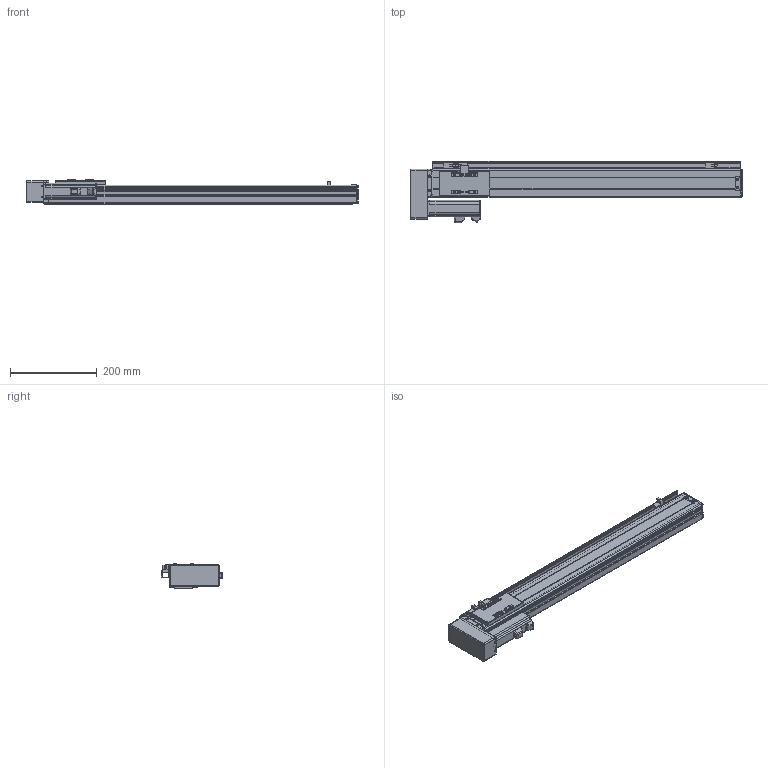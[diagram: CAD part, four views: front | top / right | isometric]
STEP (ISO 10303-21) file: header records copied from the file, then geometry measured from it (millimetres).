
FILE_DESCRIPTION (( 'STEP AP203' ), '1' );
FILE_NAME ('VT6-S560-BL.STEP', '2016-06-17T09:50:57', ( '' ), ( '' ), 'SwSTEP 2.0', 'SolidWorks 2013', '' );
FILE_SCHEMA (( 'CONFIG_CONTROL_DESIGN' ));
Length unit declared in the file: millimetre
Products named in the file (17): VT6-S560-BL; ET6-BLRM絳寢_俴最560; ET6-BC耜啣_560; ET6-BLRM滅鳥湍_560; ET6-BC癹弇羲壽羞_560; ET6-BLRM佪裝_560; T6-賑雄殤; T6-BMLRヶ傷裔; T6-裔啣; T6-BMRLヶ傷裔揤啣; T6-揤輸; T6-BMRL肮祭湍謫欶; T6-覜茼え; T6-BRL萇儂假蚾啣; T6-綴傷裔; 侂狟100W MSMD012G1V; EE-XS674
Assembly tree (19 placements, depth 2):
  VT6-S560-BL
    ET6-BC耜啣_560  x2
    ET6-BC癹弇羲壽羞_560
    T6-賑雄殤
    T6-裔啣
    T6-揤輸
    T6-覜茼え
    T6-綴傷裔
    EE-XS674  x3
    ET6-BLRM絳寢_俴最560
    ET6-BLRM滅鳥湍_560
    ET6-BLRM佪裝_560
    T6-BMLRヶ傷裔
    T6-BMRLヶ傷裔揤啣
    T6-BMRL肮祭湍謫欶
    T6-BRL萇儂假蚾啣
    侂狟100W MSMD012G1V
Bounding box: 767 x 141 x 56 mm (x, y, z)
Volume: 952966.5 mm3; surface area: 585701 mm2
Topology: 19 solids, 19 shells, 913 faces, 2424 edges, 1536 vertices
Faces by surface type: cylinder 439, plane 374, cone 46, torus 36, sphere 18
Entity records: 28285 total; most frequent: CARTESIAN_POINT 4753, DIRECTION 4742, ORIENTED_EDGE 4366, EDGE_CURVE 2183, AXIS2_PLACEMENT_3D 1745, VERTEX_POINT 1396, LINE 1252, VECTOR 1252
